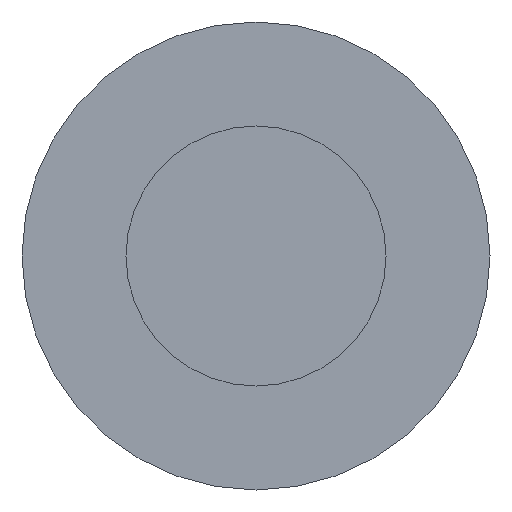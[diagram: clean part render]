
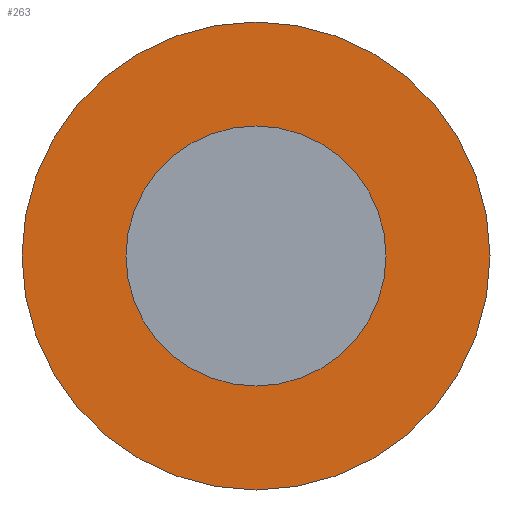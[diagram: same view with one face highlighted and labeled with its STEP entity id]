
A CAD part, front view. The second image highlights one B-rep face of the part: STEP entity #263.
In plain terms, the highlighted planar face has unit normal (0, -1, 0).
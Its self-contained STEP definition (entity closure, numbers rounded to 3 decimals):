
#15 = DIRECTION ( 'NONE',  ( 0., 0., 1. ) ) ;
#37 = FACE_OUTER_BOUND ( 'NONE', #128, .T. ) ;
#39 = CARTESIAN_POINT ( 'NONE',  ( 0., 40., 0. ) ) ;
#49 = ORIENTED_EDGE ( 'NONE', *, *, #61, .T. ) ;
#54 = CIRCLE ( 'NONE', #105, 1.5 ) ;
#57 = FACE_BOUND ( 'NONE', #224, .T. ) ;
#61 = EDGE_CURVE ( 'NONE', #160, #252, #54, .T. ) ;
#74 = CIRCLE ( 'NONE', #140, 1.5 ) ;
#79 = DIRECTION ( 'NONE',  ( 0., 1., 0. ) ) ;
#86 = CARTESIAN_POINT ( 'NONE',  ( 0., 40., 2.7 ) ) ;
#91 = AXIS2_PLACEMENT_3D ( 'NONE', #362, #270, #170 ) ;
#105 = AXIS2_PLACEMENT_3D ( 'NONE', #169, #300, #15 ) ;
#112 = CARTESIAN_POINT ( 'NONE',  ( 0., 40., 0. ) ) ;
#128 = EDGE_LOOP ( 'NONE', ( #176, #354 ) ) ;
#140 = AXIS2_PLACEMENT_3D ( 'NONE', #240, #370, #340 ) ;
#143 = CARTESIAN_POINT ( 'NONE',  ( 0., 40., 1.5 ) ) ;
#160 = VERTEX_POINT ( 'NONE', #143 ) ;
#164 = PLANE ( 'NONE',  #355 ) ;
#169 = CARTESIAN_POINT ( 'NONE',  ( 0., 40., 0. ) ) ;
#170 = DIRECTION ( 'NONE',  ( 0., 0., 1. ) ) ;
#176 = ORIENTED_EDGE ( 'NONE', *, *, #177, .F. ) ;
#177 = EDGE_CURVE ( 'NONE', #216, #345, #214, .T. ) ;
#183 = EDGE_CURVE ( 'NONE', #252, #160, #74, .T. ) ;
#188 = DIRECTION ( 'NONE',  ( 0., 1., 0. ) ) ;
#205 = DIRECTION ( 'NONE',  ( 0., 0., 1. ) ) ;
#209 = CARTESIAN_POINT ( 'NONE',  ( 0., 40., -2.7 ) ) ;
#214 = CIRCLE ( 'NONE', #309, 2.7 ) ;
#216 = VERTEX_POINT ( 'NONE', #209 ) ;
#224 = EDGE_LOOP ( 'NONE', ( #352, #49 ) ) ;
#240 = CARTESIAN_POINT ( 'NONE',  ( 0., 40., 0. ) ) ;
#252 = VERTEX_POINT ( 'NONE', #357 ) ;
#263 = ADVANCED_FACE ( 'NONE', ( #57, #37 ), #164, .F. ) ;
#270 = DIRECTION ( 'NONE',  ( 0., 1., 0. ) ) ;
#300 = DIRECTION ( 'NONE',  ( 0., 1., 0. ) ) ;
#309 = AXIS2_PLACEMENT_3D ( 'NONE', #112, #79, #205 ) ;
#340 = DIRECTION ( 'NONE',  ( 0., 0., 1. ) ) ;
#342 = CIRCLE ( 'NONE', #91, 2.7 ) ;
#345 = VERTEX_POINT ( 'NONE', #86 ) ;
#352 = ORIENTED_EDGE ( 'NONE', *, *, #183, .T. ) ;
#354 = ORIENTED_EDGE ( 'NONE', *, *, #406, .F. ) ;
#355 = AXIS2_PLACEMENT_3D ( 'NONE', #39, #188, #377 ) ;
#357 = CARTESIAN_POINT ( 'NONE',  ( 0., 40., -1.5 ) ) ;
#362 = CARTESIAN_POINT ( 'NONE',  ( 0., 40., 0. ) ) ;
#370 = DIRECTION ( 'NONE',  ( 0., 1., 0. ) ) ;
#377 = DIRECTION ( 'NONE',  ( 0., 0., 1. ) ) ;
#406 = EDGE_CURVE ( 'NONE', #345, #216, #342, .T. ) ;
